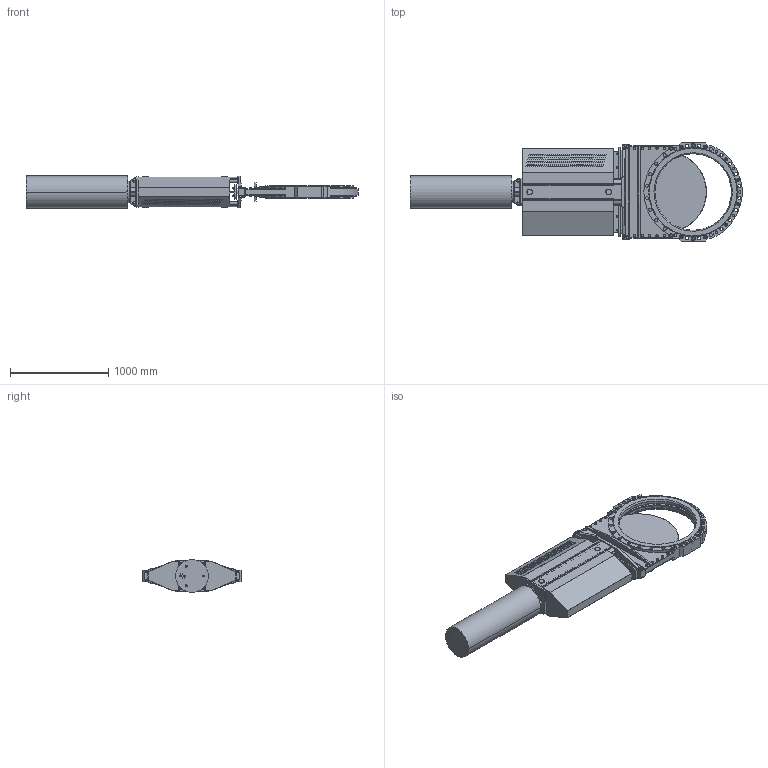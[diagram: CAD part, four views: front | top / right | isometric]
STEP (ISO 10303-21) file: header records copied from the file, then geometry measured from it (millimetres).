
FILE_DESCRIPTION(('STEP AP203'),'1');
FILE_NAME('G:/KONSTRUK/3-d block för CD/XV VALVE/EC/XVE-DN800-PN10-EC320.stp','2013-01-28T14:37:13',(' '),(' '),'Spatial InterOp 3D',' ',' ');
FILE_SCHEMA(('CONFIG_CONTROL_DESIGN'));
Length unit declared in the file: millimetre
Products named in the file (3): 1; 2; 3
Bounding box: 3386.39 x 1002 x 336 mm (x, y, z)
Volume: 177842003.8 mm3; surface area: 13965289.5 mm2
Topology: 3 solids, 39 shells, 4954 faces, 12870 edges, 8269 vertices
Faces by surface type: cylinder 2128, plane 1832, cone 948, torus 42, bspline 4
Entity records: 156229 total; most frequent: CARTESIAN_POINT 33472, DIRECTION 26391, ORIENTED_EDGE 25708, EDGE_CURVE 12854, AXIS2_PLACEMENT_3D 10242, VERTEX_POINT 8269, EDGE_LOOP 6011, LINE 5907
